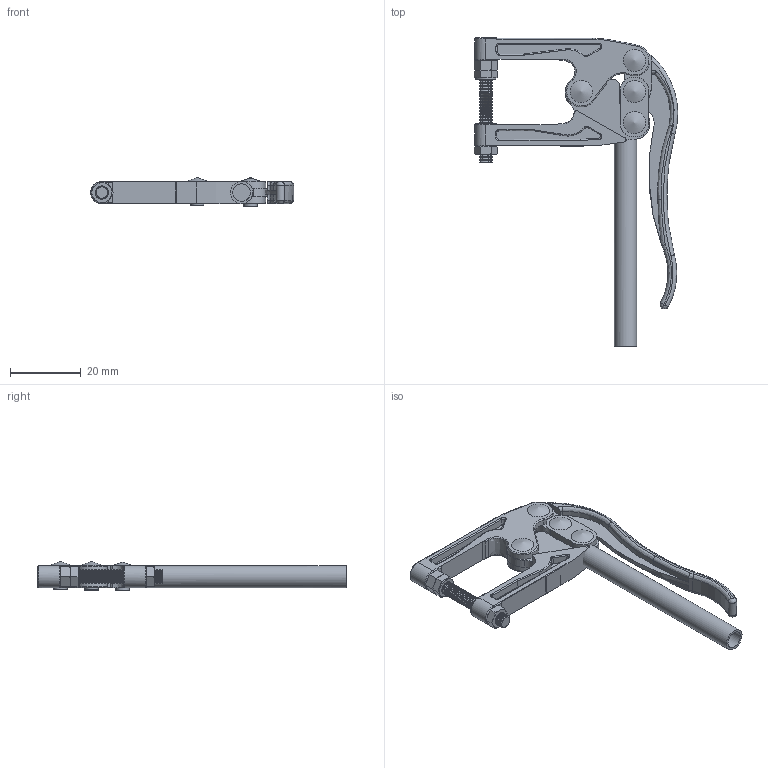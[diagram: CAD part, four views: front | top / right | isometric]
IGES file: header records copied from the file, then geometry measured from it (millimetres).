
Global section: file name: C-1200 Open; native system: Autodesk RealDWG; preprocessor: Autodesk Translation Framework DWG producer (atf_dwg_producer); author: unknown; organization: unknown; date: 20160517.104544; units: centimetre
Bounding box: 57.31 x 86.88 x 8.1 mm (x, y, z)
Volume: 7153 mm3; surface area: 10201.5 mm2
Topology: 14 solids, 14 shells, 495 faces, 1100 edges, 644 vertices
Faces by surface type: bspline 495
